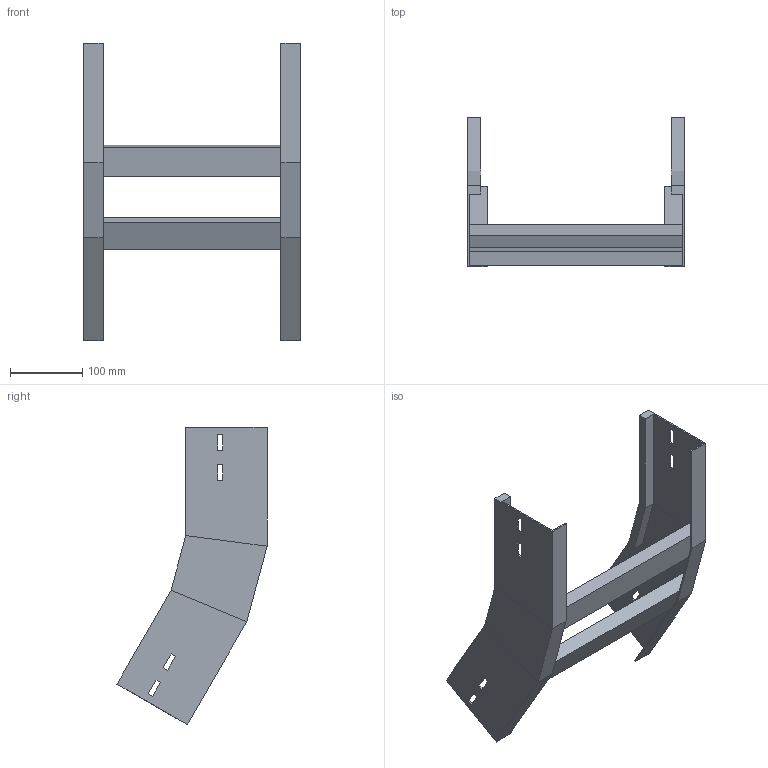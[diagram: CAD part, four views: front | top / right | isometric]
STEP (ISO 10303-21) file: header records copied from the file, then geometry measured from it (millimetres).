
FILE_DESCRIPTION (( 'STEP AP214' ), '1' );
FILE_NAME ('A2X32B3J300XX.step', '2025-03-20T09:59:13', ( '' ), ( '' ), 'SwSTEP 2.0', 'SolidWorks 2023', '' );
FILE_SCHEMA (( 'AUTOMOTIVE_DESIGN' ));
Length unit declared in the file: millimetre
Products named in the file (3): LONGH.SALITA_30°_H112.5_R300; TRAVERSINO_300; A2X32B3J300XX
Assembly tree (4 placements, depth 2):
  A2X32B3J300XX
    LONGH.SALITA_30°_H112.5_R300  x2
    TRAVERSINO_300  x2
Bounding box: 300 x 207.73 x 411.66 mm (x, y, z)
Volume: 850668.9 mm3; surface area: 330058 mm2
Topology: 4 solids, 4 shells, 96 faces, 232 edges, 144 vertices
Faces by surface type: plane 96
Entity records: 1472 total; most frequent: CARTESIAN_POINT 243, ORIENTED_EDGE 232, DIRECTION 226, LINE 116, EDGE_CURVE 116, VECTOR 116, VERTEX_POINT 72, EDGE_LOOP 56
